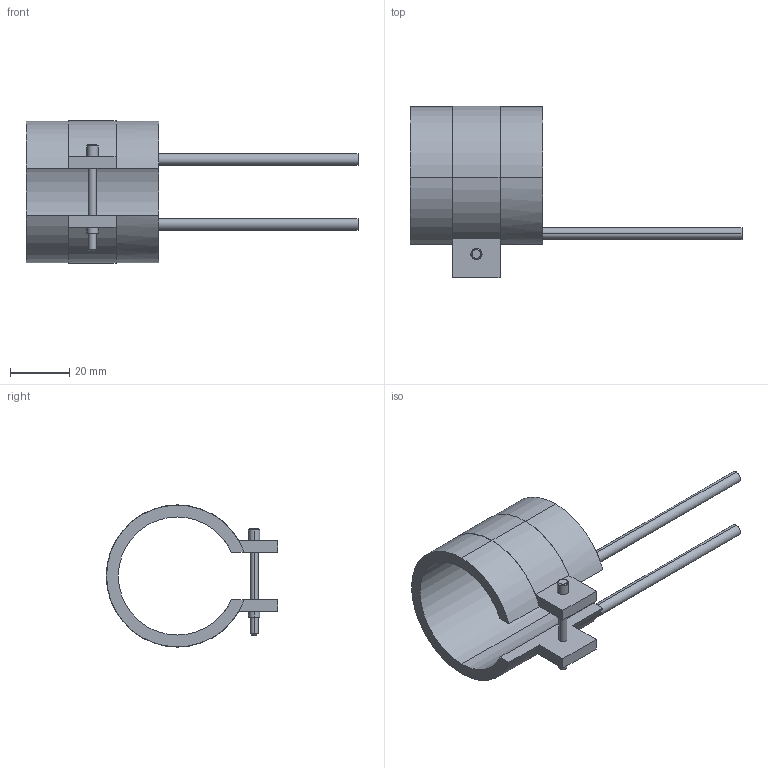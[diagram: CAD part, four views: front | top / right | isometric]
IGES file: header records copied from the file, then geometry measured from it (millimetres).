
Start section: START RECORD GO HERE.
Global section: file name: 14040045.igs; native system: DASSAULT SYSTEMES CATIA V5 R20 - www.3ds.com; preprocessor: CATIA Version 5 Release 20 ; author: Utente; organization: NB04-ASUS; date: 20210331.134356; units: millimetre
Bounding box: 112.5 x 58.1 x 48.2 mm (x, y, z)
Surface area: 15264.6 mm2 (no closed solid volume)
Topology: 0 solids, 0 shells, 45 faces, 232 edges, 232 vertices
Faces by surface type: revolution 28, plane 17
